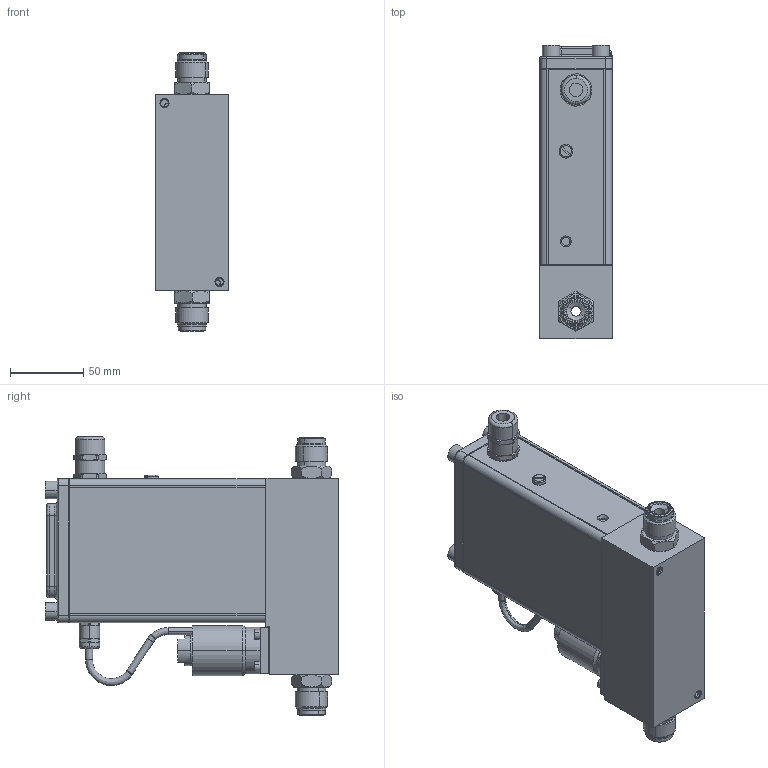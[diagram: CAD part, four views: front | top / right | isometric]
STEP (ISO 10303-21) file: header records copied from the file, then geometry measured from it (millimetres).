
FILE_DESCRIPTION (( 'STEP AP203' ), '1' );
FILE_NAME ('SLAMF50-S-1L-1-F-REVB.STEP', '2021-01-07T14:47:32', ( '' ), ( '' ), 'SwSTEP 2.0', 'SolidWorks 2020', '' );
FILE_SCHEMA (( 'CONFIG_CONTROL_DESIGN' ));
Length unit declared in the file: millimetre
Products named in the file (1): SLAMF50-S-1L-1-F-REVB
Bounding box: 49.5 x 199.98 x 190.15 mm (x, y, z)
Volume: 454465.3 mm3; surface area: 206249.3 mm2
Topology: 37 solids, 37 shells, 902 faces, 2122 edges, 1341 vertices
Faces by surface type: cylinder 350, plane 333, cone 132, bspline 87
Entity records: 28627 total; most frequent: CARTESIAN_POINT 7501, DIRECTION 4546, ORIENTED_EDGE 4232, EDGE_CURVE 2116, AXIS2_PLACEMENT_3D 1778, VERTEX_POINT 1341, EDGE_LOOP 1077, VECTOR 990
